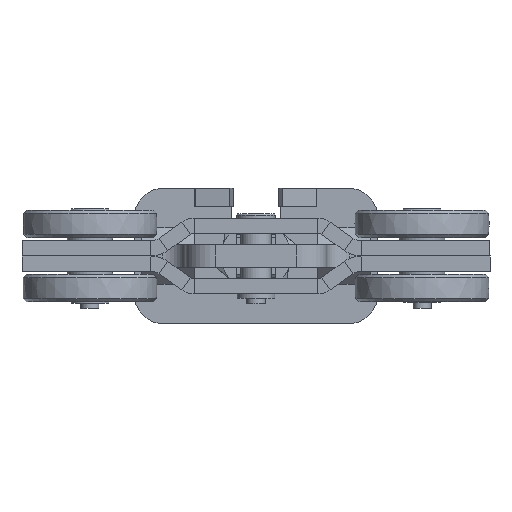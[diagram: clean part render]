
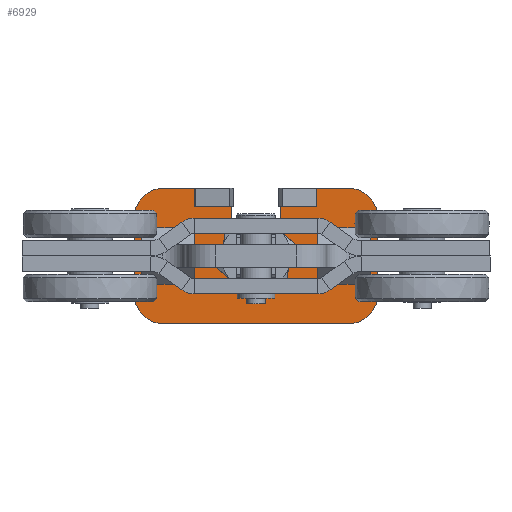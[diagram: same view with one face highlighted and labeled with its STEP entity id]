
A CAD part, front view. The second image highlights one B-rep face of the part: STEP entity #6929.
In plain terms, the highlighted planar face has unit normal (0, -1, 0) as drawn and (0, 0, 1) by its records, which use the part's own axes.
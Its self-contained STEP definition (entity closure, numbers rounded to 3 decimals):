
#262=FACE_BOUND('',#1412,.T.);
#263=FACE_BOUND('',#1413,.T.);
#388=CIRCLE('',#7392,20.);
#389=CIRCLE('',#7393,20.);
#390=CIRCLE('',#7394,20.);
#391=CIRCLE('',#7395,20.);
#392=CIRCLE('',#7396,16.);
#998=FACE_OUTER_BOUND('',#1411,.T.);
#1411=EDGE_LOOP('',(#5003,#5004,#5005,#5006,#5007,#5008,#5009,#5010,#5011,
#5012,#5013,#5014,#5015,#5016,#5017,#5018,#5019,#5020,#5021,#5022));
#1412=EDGE_LOOP('',(#5023,#5024,#5025,#5026));
#1413=EDGE_LOOP('',(#5027,#5028,#5029,#5030));
#1988=LINE('',#10631,#2552);
#2000=LINE('',#10655,#2564);
#2004=LINE('',#10663,#2568);
#2006=LINE('',#10667,#2570);
#2009=LINE('',#10673,#2573);
#2010=LINE('',#10677,#2574);
#2011=LINE('',#10681,#2575);
#2012=LINE('',#10685,#2576);
#2013=LINE('',#10689,#2577);
#2014=LINE('',#10691,#2578);
#2015=LINE('',#10693,#2579);
#2016=LINE('',#10695,#2580);
#2017=LINE('',#10697,#2581);
#2018=LINE('',#10699,#2582);
#2019=LINE('',#10702,#2583);
#2020=LINE('',#10705,#2584);
#2021=LINE('',#10707,#2585);
#2022=LINE('',#10709,#2586);
#2023=LINE('',#10710,#2587);
#2024=LINE('',#10713,#2588);
#2025=LINE('',#10715,#2589);
#2026=LINE('',#10717,#2590);
#2027=LINE('',#10718,#2591);
#2552=VECTOR('',#8426,12.);
#2564=VECTOR('',#8452,0.1);
#2568=VECTOR('',#8458,0.1);
#2570=VECTOR('',#8462,24.648);
#2573=VECTOR('',#8467,20.202);
#2574=VECTOR('',#8470,50.);
#2575=VECTOR('',#8473,121.5);
#2576=VECTOR('',#8476,50.);
#2577=VECTOR('',#8479,20.75);
#2578=VECTOR('',#8480,12.);
#2579=VECTOR('',#8481,0.1);
#2580=VECTOR('',#8482,0.1);
#2581=VECTOR('',#8483,24.1);
#2582=VECTOR('',#8484,41.9);
#2583=VECTOR('',#8487,41.9);
#2584=VECTOR('',#8488,15.4);
#2585=VECTOR('',#8489,25.4);
#2586=VECTOR('',#8490,15.4);
#2587=VECTOR('',#8491,25.4);
#2588=VECTOR('',#8492,15.4);
#2589=VECTOR('',#8493,25.4);
#2590=VECTOR('',#8494,15.4);
#2591=VECTOR('',#8495,25.4);
#3083=VERTEX_POINT('',#10618);
#3086=VERTEX_POINT('',#10625);
#3092=VERTEX_POINT('',#10654);
#3095=VERTEX_POINT('',#10662);
#3096=VERTEX_POINT('',#10666);
#3098=VERTEX_POINT('',#10672);
#3099=VERTEX_POINT('',#10674);
#3100=VERTEX_POINT('',#10676);
#3101=VERTEX_POINT('',#10678);
#3102=VERTEX_POINT('',#10680);
#3103=VERTEX_POINT('',#10682);
#3104=VERTEX_POINT('',#10684);
#3105=VERTEX_POINT('',#10686);
#3106=VERTEX_POINT('',#10688);
#3107=VERTEX_POINT('',#10690);
#3108=VERTEX_POINT('',#10692);
#3109=VERTEX_POINT('',#10694);
#3110=VERTEX_POINT('',#10696);
#3111=VERTEX_POINT('',#10698);
#3112=VERTEX_POINT('',#10700);
#3113=VERTEX_POINT('',#10703);
#3114=VERTEX_POINT('',#10704);
#3115=VERTEX_POINT('',#10706);
#3116=VERTEX_POINT('',#10708);
#3117=VERTEX_POINT('',#10711);
#3118=VERTEX_POINT('',#10712);
#3119=VERTEX_POINT('',#10714);
#3120=VERTEX_POINT('',#10716);
#3812=EDGE_CURVE('',#3083,#3086,#1988,.T.);
#3824=EDGE_CURVE('',#3092,#3083,#2000,.T.);
#3828=EDGE_CURVE('',#3095,#3092,#2004,.T.);
#3830=EDGE_CURVE('',#3095,#3096,#2006,.T.);
#3833=EDGE_CURVE('',#3098,#3086,#2009,.T.);
#3834=EDGE_CURVE('',#3099,#3098,#388,.T.);
#3835=EDGE_CURVE('',#3100,#3099,#2010,.T.);
#3836=EDGE_CURVE('',#3101,#3100,#389,.T.);
#3837=EDGE_CURVE('',#3102,#3101,#2011,.T.);
#3838=EDGE_CURVE('',#3103,#3102,#390,.T.);
#3839=EDGE_CURVE('',#3104,#3103,#2012,.T.);
#3840=EDGE_CURVE('',#3105,#3104,#391,.T.);
#3841=EDGE_CURVE('',#3106,#3105,#2013,.T.);
#3842=EDGE_CURVE('',#3106,#3107,#2014,.T.);
#3843=EDGE_CURVE('',#3107,#3108,#2015,.T.);
#3844=EDGE_CURVE('',#3108,#3109,#2016,.T.);
#3845=EDGE_CURVE('',#3109,#3110,#2017,.T.);
#3846=EDGE_CURVE('',#3111,#3110,#2018,.T.);
#3847=EDGE_CURVE('',#3112,#3111,#392,.T.);
#3848=EDGE_CURVE('',#3096,#3112,#2019,.T.);
#3849=EDGE_CURVE('',#3113,#3114,#2020,.T.);
#3850=EDGE_CURVE('',#3114,#3115,#2021,.T.);
#3851=EDGE_CURVE('',#3115,#3116,#2022,.T.);
#3852=EDGE_CURVE('',#3116,#3113,#2023,.T.);
#3853=EDGE_CURVE('',#3117,#3118,#2024,.T.);
#3854=EDGE_CURVE('',#3118,#3119,#2025,.T.);
#3855=EDGE_CURVE('',#3119,#3120,#2026,.T.);
#3856=EDGE_CURVE('',#3120,#3117,#2027,.T.);
#5003=ORIENTED_EDGE('',*,*,#3830,.F.);
#5004=ORIENTED_EDGE('',*,*,#3828,.T.);
#5005=ORIENTED_EDGE('',*,*,#3824,.T.);
#5006=ORIENTED_EDGE('',*,*,#3812,.T.);
#5007=ORIENTED_EDGE('',*,*,#3833,.F.);
#5008=ORIENTED_EDGE('',*,*,#3834,.F.);
#5009=ORIENTED_EDGE('',*,*,#3835,.F.);
#5010=ORIENTED_EDGE('',*,*,#3836,.F.);
#5011=ORIENTED_EDGE('',*,*,#3837,.F.);
#5012=ORIENTED_EDGE('',*,*,#3838,.F.);
#5013=ORIENTED_EDGE('',*,*,#3839,.F.);
#5014=ORIENTED_EDGE('',*,*,#3840,.F.);
#5015=ORIENTED_EDGE('',*,*,#3841,.F.);
#5016=ORIENTED_EDGE('',*,*,#3842,.T.);
#5017=ORIENTED_EDGE('',*,*,#3843,.T.);
#5018=ORIENTED_EDGE('',*,*,#3844,.T.);
#5019=ORIENTED_EDGE('',*,*,#3845,.T.);
#5020=ORIENTED_EDGE('',*,*,#3846,.F.);
#5021=ORIENTED_EDGE('',*,*,#3847,.F.);
#5022=ORIENTED_EDGE('',*,*,#3848,.F.);
#5023=ORIENTED_EDGE('',*,*,#3849,.T.);
#5024=ORIENTED_EDGE('',*,*,#3850,.T.);
#5025=ORIENTED_EDGE('',*,*,#3851,.T.);
#5026=ORIENTED_EDGE('',*,*,#3852,.T.);
#5027=ORIENTED_EDGE('',*,*,#3853,.T.);
#5028=ORIENTED_EDGE('',*,*,#3854,.T.);
#5029=ORIENTED_EDGE('',*,*,#3855,.T.);
#5030=ORIENTED_EDGE('',*,*,#3856,.T.);
#6696=PLANE('',#7391);
#6929=ADVANCED_FACE('',(#998,#262,#263),#6696,.T.);
#7391=AXIS2_PLACEMENT_3D('',#10671,#8465,#8466);
#7392=AXIS2_PLACEMENT_3D('',#10675,#8468,#8469);
#7393=AXIS2_PLACEMENT_3D('',#10679,#8471,#8472);
#7394=AXIS2_PLACEMENT_3D('',#10683,#8474,#8475);
#7395=AXIS2_PLACEMENT_3D('',#10687,#8477,#8478);
#7396=AXIS2_PLACEMENT_3D('',#10701,#8485,#8486);
#8426=DIRECTION('',(0.,-1.,0.));
#8452=DIRECTION('',(-1.,0.,0.));
#8458=DIRECTION('',(0.,-1.,0.));
#8462=DIRECTION('',(-1.,0.,0.));
#8465=DIRECTION('center_axis',(0.,0.,1.));
#8466=DIRECTION('ref_axis',(1.,0.,0.));
#8467=DIRECTION('',(-1.,0.,0.));
#8468=DIRECTION('center_axis',(0.,0.,-1.));
#8469=DIRECTION('ref_axis',(0.,-1.,0.));
#8470=DIRECTION('',(0.,-1.,0.));
#8471=DIRECTION('center_axis',(0.,0.,-1.));
#8472=DIRECTION('ref_axis',(1.,0.,0.));
#8473=DIRECTION('',(1.,0.,0.));
#8474=DIRECTION('center_axis',(0.,0.,-1.));
#8475=DIRECTION('ref_axis',(0.,1.,0.));
#8476=DIRECTION('',(0.,1.,0.));
#8477=DIRECTION('center_axis',(0.,0.,-1.));
#8478=DIRECTION('ref_axis',(-1.,0.,0.));
#8479=DIRECTION('',(-1.,0.,0.));
#8480=DIRECTION('',(0.,1.,0.));
#8481=DIRECTION('',(-1.,0.,0.));
#8482=DIRECTION('',(0.,1.,0.));
#8483=DIRECTION('',(1.,0.,0.));
#8484=DIRECTION('',(0.,-1.,0.));
#8485=DIRECTION('center_axis',(0.,0.,1.));
#8486=DIRECTION('ref_axis',(-1.,0.,0.));
#8487=DIRECTION('',(0.,1.,0.));
#8488=DIRECTION('',(0.,-1.,0.));
#8489=DIRECTION('',(-1.,0.,0.));
#8490=DIRECTION('',(0.,1.,0.));
#8491=DIRECTION('',(1.,0.,0.));
#8492=DIRECTION('',(0.,-1.,0.));
#8493=DIRECTION('',(-1.,0.,0.));
#8494=DIRECTION('',(0.,1.,0.));
#8495=DIRECTION('',(1.,0.,0.));
#10618=CARTESIAN_POINT('',(40.548,-33.,12.));
#10625=CARTESIAN_POINT('',(40.548,-45.,12.));
#10631=CARTESIAN_POINT('',(40.548,-24.492,12.));
#10654=CARTESIAN_POINT('',(40.648,-33.,12.));
#10655=CARTESIAN_POINT('',(19.676,-33.,12.));
#10662=CARTESIAN_POINT('',(40.648,-32.9,12.));
#10663=CARTESIAN_POINT('',(40.648,-18.492,12.));
#10666=CARTESIAN_POINT('',(16.,-32.9,12.));
#10667=CARTESIAN_POINT('',(16.,-32.9,12.));
#10671=CARTESIAN_POINT('Origin',(0.,-3.985,
12.));
#10672=CARTESIAN_POINT('',(60.75,-45.,12.));
#10673=CARTESIAN_POINT('',(-60.75,-45.,12.));
#10674=CARTESIAN_POINT('',(80.75,-25.,12.));
#10675=CARTESIAN_POINT('Origin',(60.75,-25.,12.));
#10676=CARTESIAN_POINT('',(80.75,25.,12.));
#10677=CARTESIAN_POINT('',(80.75,-25.,12.));
#10678=CARTESIAN_POINT('',(60.75,45.,12.));
#10679=CARTESIAN_POINT('Origin',(60.75,25.,12.));
#10680=CARTESIAN_POINT('',(-60.75,45.,12.));
#10681=CARTESIAN_POINT('',(60.75,45.,12.));
#10682=CARTESIAN_POINT('',(-80.75,25.,12.));
#10683=CARTESIAN_POINT('Origin',(-60.75,25.,12.));
#10684=CARTESIAN_POINT('',(-80.75,-25.,12.));
#10685=CARTESIAN_POINT('',(-80.75,25.,12.));
#10686=CARTESIAN_POINT('',(-60.75,-45.,12.));
#10687=CARTESIAN_POINT('Origin',(-60.75,-25.,12.));
#10688=CARTESIAN_POINT('',(-40.,-45.,12.));
#10689=CARTESIAN_POINT('',(-60.75,-45.,12.));
#10690=CARTESIAN_POINT('',(-40.,-33.,12.));
#10691=CARTESIAN_POINT('',(-40.,-18.492,12.));
#10692=CARTESIAN_POINT('',(-40.1,-33.,12.));
#10693=CARTESIAN_POINT('',(-20.05,-33.,12.));
#10694=CARTESIAN_POINT('',(-40.1,-32.9,12.));
#10695=CARTESIAN_POINT('',(-40.1,-18.442,12.));
#10696=CARTESIAN_POINT('',(-16.,-32.9,12.));
#10697=CARTESIAN_POINT('',(-19.402,-32.9,12.));
#10698=CARTESIAN_POINT('',(-16.,9.,12.));
#10699=CARTESIAN_POINT('',(-16.,-32.9,12.));
#10700=CARTESIAN_POINT('',(16.,9.,12.));
#10701=CARTESIAN_POINT('Origin',(0.,9.,
12.));
#10702=CARTESIAN_POINT('',(16.,9.,12.));
#10703=CARTESIAN_POINT('',(-42.05,7.7,12.));
#10704=CARTESIAN_POINT('',(-42.05,-7.7,12.));
#10705=CARTESIAN_POINT('',(-42.05,1.858,12.));
#10706=CARTESIAN_POINT('',(-67.45,-7.7,12.));
#10707=CARTESIAN_POINT('',(-21.025,-7.7,12.));
#10708=CARTESIAN_POINT('',(-67.45,7.7,12.));
#10709=CARTESIAN_POINT('',(-67.45,-5.842,12.));
#10710=CARTESIAN_POINT('',(-33.725,7.7,12.));
#10711=CARTESIAN_POINT('',(67.45,7.7,12.));
#10712=CARTESIAN_POINT('',(67.45,-7.7,12.));
#10713=CARTESIAN_POINT('',(67.45,1.858,12.));
#10714=CARTESIAN_POINT('',(42.05,-7.7,12.));
#10715=CARTESIAN_POINT('',(33.725,-7.7,12.));
#10716=CARTESIAN_POINT('',(42.05,7.7,12.));
#10717=CARTESIAN_POINT('',(42.05,-5.842,12.));
#10718=CARTESIAN_POINT('',(21.025,7.7,12.));
